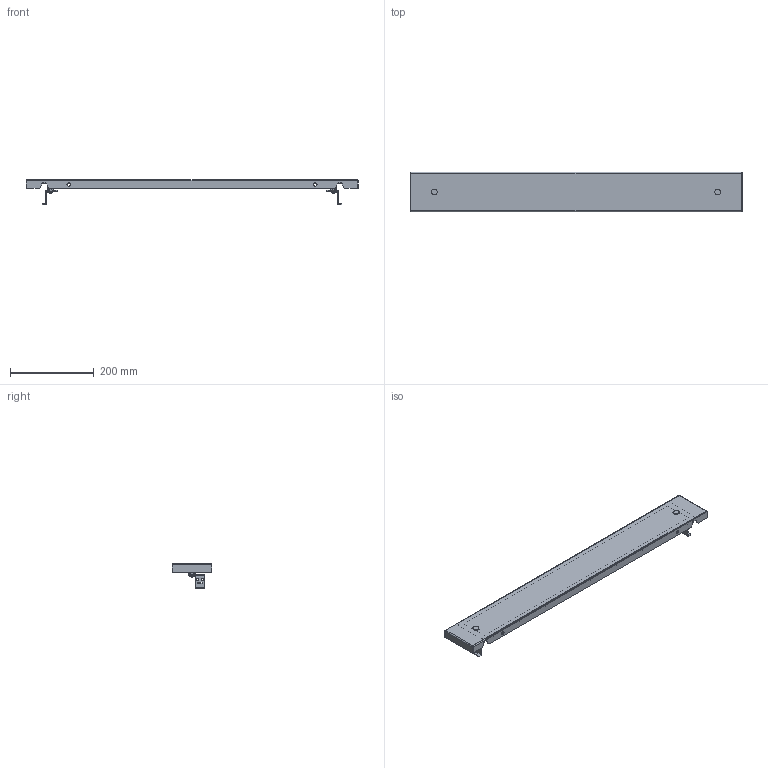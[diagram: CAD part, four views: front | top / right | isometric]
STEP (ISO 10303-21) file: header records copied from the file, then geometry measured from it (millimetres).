
FILE_DESCRIPTION(('CAx-IF Rec.Pracs.---Model Styling and Organization---1.2---2011-12-15','CAx-IF Rec.Pracs.---Geometric and Assembly Validation Properties---4.1---2014-06-16','CAx-IF Rec.Pracs.---PMI Polyline Presentation---2.0---2013-05-24'),'2;1');
FILE_NAME('R5CPFEM8100.stp','2021-05-06T03:39:25+03:00',(''),(''),'STEP Interface 4.4 by CT CoreTechnologie','3D_Evolution4.4 by CT CoreTechnologie','');
FILE_SCHEMA(('AUTOMOTIVE_DESIGN { 1 0 10303 214 1 1 1 1 }'));
Length unit declared in the file: millimetre
Products named in the file (11): R5CPFEM8100; M6x16-DIN 7985 ISR_thread; RB.0544.00.00.1_-01; A1100001; RB.0555.00.00.0 ÑÁ_-02; PF 7x14 R5CPFEM_0100x0800; Ì6õ12-A5100231_straight; AC00C061_AC00C061; RB.0555.00.01.0_-02; AC00C172_AC00C172; RB.0544.00.00.1_-00
Assembly tree (13 placements, depth 3):
  R5CPFEM8100
    M6x16-DIN 7985 ISR_thread  x2
    RB.0544.00.00.1_-01
    A1100001  x2
    RB.0555.00.00.0 ÑÁ_-02
      PF 7x14 R5CPFEM_0100x0800
      Ì6õ12-A5100231_straight
      AC00C061_AC00C061
      RB.0555.00.01.0_-02
    AC00C172_AC00C172  x2
    RB.0544.00.00.1_-00
Bounding box: 794 x 95 x 61 mm (x, y, z)
Surface area: 282181.7 mm2 (no closed solid volume)
Topology: 0 solids, 18 shells, 302 faces, 782 edges, 516 vertices
Faces by surface type: plane 194, cylinder 84, bspline 24
Entity records: 9067 total; most frequent: CARTESIAN_POINT 2110, ORIENTED_EDGE 1348, DIRECTION 1303, EDGE_CURVE 674, VECTOR 497, LINE 497, VERTEX_POINT 448, AXIS2_PLACEMENT_3D 403
